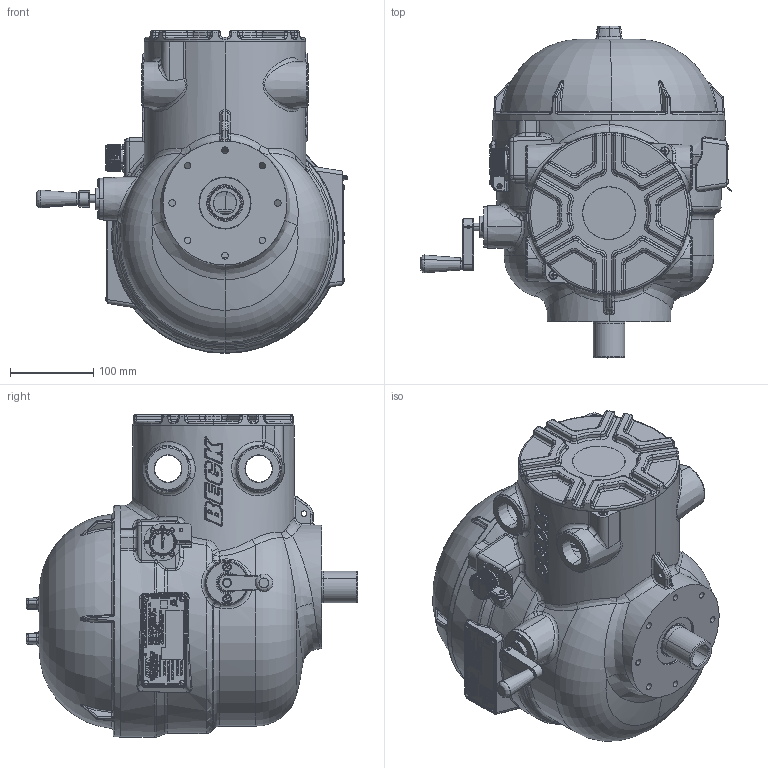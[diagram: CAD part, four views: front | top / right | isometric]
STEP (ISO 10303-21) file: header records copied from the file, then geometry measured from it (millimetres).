
FILE_DESCRIPTION (( 'STEP AP214' ), '1' );
FILE_NAME ('18-5700-01.STEP', '2022-09-14T12:51:20', ( '' ), ( '' ), 'SwSTEP 2.0', 'SolidWorks 2019', '' );
FILE_SCHEMA (( 'AUTOMOTIVE_DESIGN' ));
Length unit declared in the file: inch
Products named in the file (1): 18-5700-01
Bounding box: 374.41 x 399.59 x 388.43 mm (x, y, z)
Surface area: 624490.1 mm2 (no closed solid volume)
Topology: 0 solids, 468 shells, 2305 faces, 15863 edges, 13901 vertices
Faces by surface type: plane 906, cylinder 506, bspline 434, torus 210, cone 130, sphere 119
Entity records: 255204 total; most frequent: CARTESIAN_POINT 120143, ORIENTED_EDGE 19460, DIRECTION 16748, EDGE_CURVE 15857, VERTEX_POINT 13901, VECTOR 8126, LINE 8126, B_SPLINE_CURVE_WITH_KNOTS 5041
